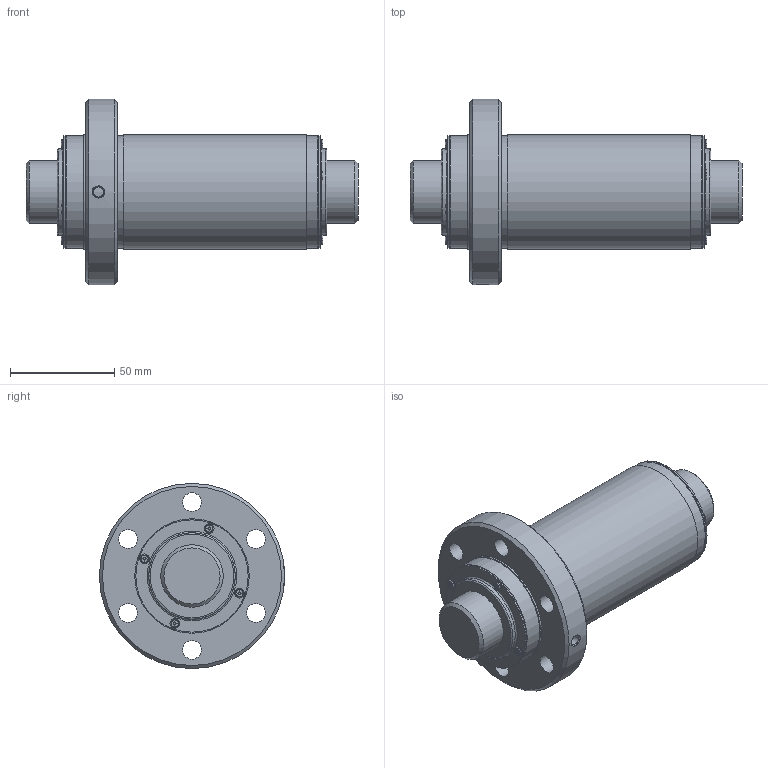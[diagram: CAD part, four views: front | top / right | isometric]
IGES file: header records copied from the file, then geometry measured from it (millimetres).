
Start section: Data from Parasolid IGES Translator 26.0.171, Copyright(c) 2006 Siemens PLM Software. All Rights Reserved.
Global section: file name: CNF3060-6ZZ+159.6LC7T_000_rev.igs; native system: By Siemens PLM Incorporated; preprocessor: XPlus GENERIC/IGES 26.0.171; author: Noname; organization: Noname; date: 20250611.064442; units: millimetre
Bounding box: 159.6 x 89 x 89 mm (x, y, z)
Surface area: 65287.9 mm2 (no closed solid volume)
Topology: 0 solids, 0 shells, 211 faces, 1068 edges, 996 vertices
Faces by surface type: extrusion 125, revolution 86
